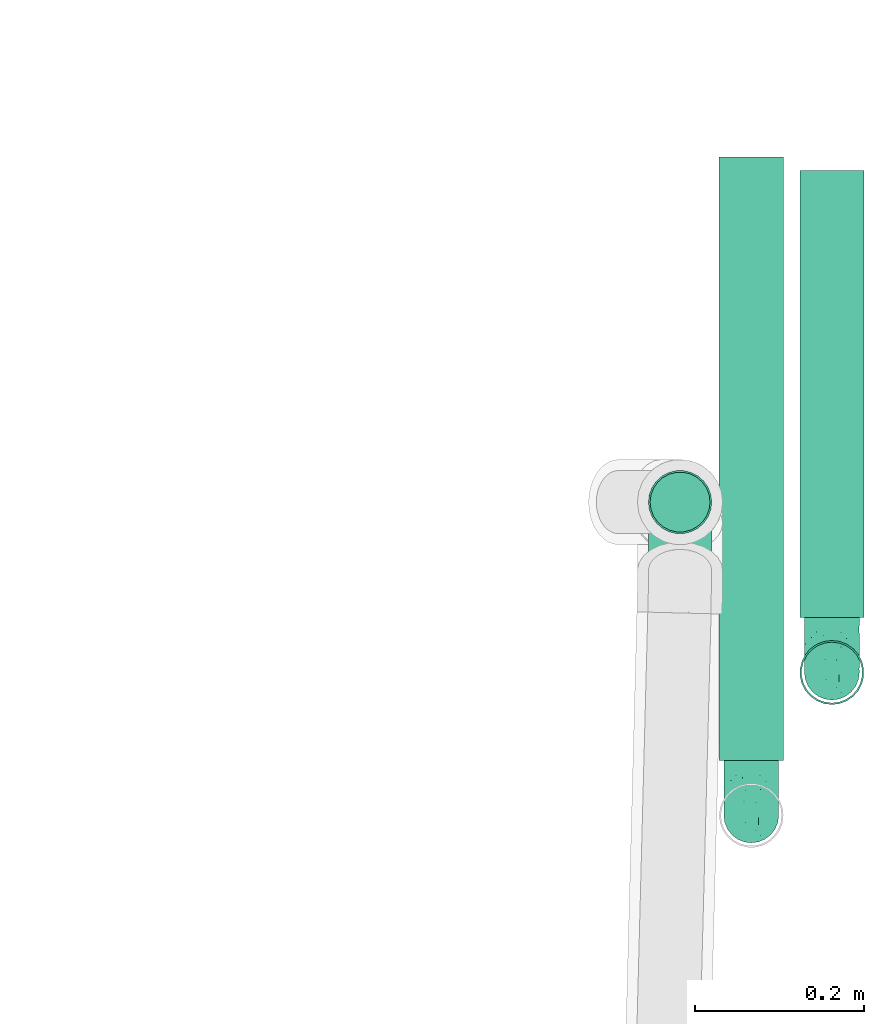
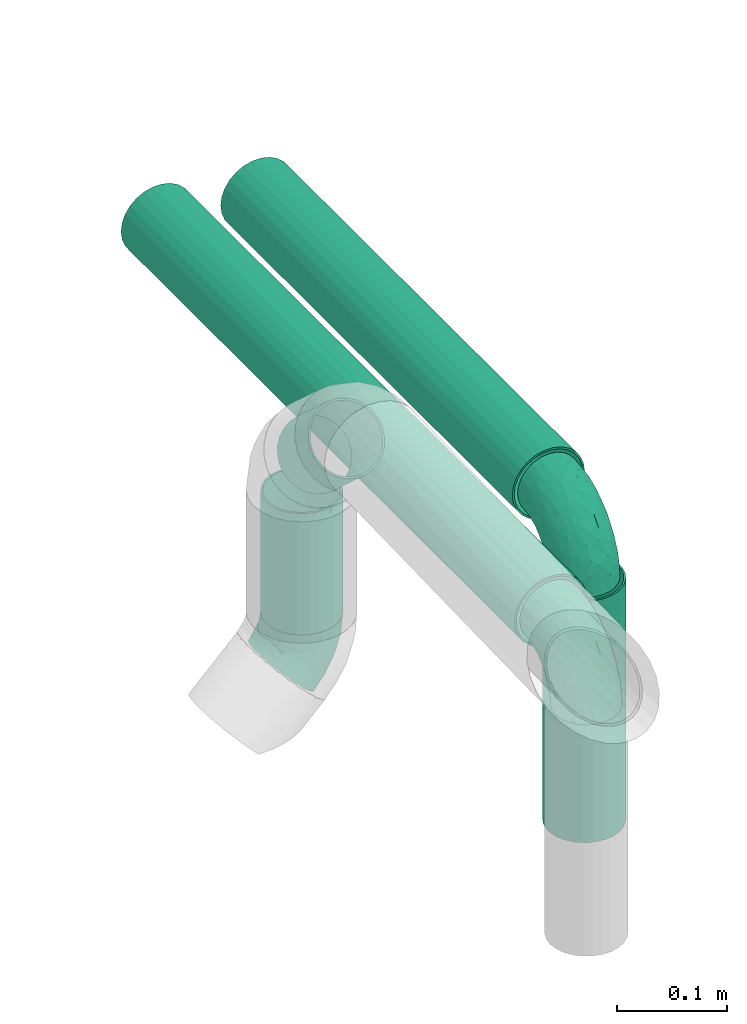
# One storey, part 78 of 156: 5 flow segments, 3 flow fittings.
"""IFC2X3 building model written with IfcOpenShell, lengths in millimetres."""

from ifc_helpers import new_model, entity, si_unit, converted_unit, derived_unit, direction, frame, origin_with_axes, origin_2d_with_axis, place, context, subcontext, project, spatial, hollow_circle, extrude, open_shell, surface_model, source, transform, mapped, type_object, element, save


model = new_model("IFC2X3")

# Units and contexts
model_context = context("Model", 3, precision=0.01, world=frame((0.0, 4.29681676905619e-09, 0.0)), true_north=direction((4.01073788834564e-13, 1.0)))
plan_context = context("Plan", 3, precision=0.01, world=frame((0.0, 4.29681676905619e-09, 0.0)), true_north=direction((4.01073788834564e-13, 1.0)))
body_context = subcontext(model_context, "Body", "Model", "MODEL_VIEW")
ifc_project = project(units=[converted_unit("PLANEANGLEUNIT", "DEGREE", entity("IfcPositiveLengthMeasure", 0.0174532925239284), si_unit("PLANEANGLEUNIT", "RADIAN"), dimensions=[0, 0, 0, 0, 0, 0, 0]), si_unit("AREAUNIT", "SQUARE_METRE"), si_unit("LENGTHUNIT", "METRE", prefix="MILLI"), si_unit("MASSUNIT", "GRAM", prefix="KILO"), si_unit("POWERUNIT", "WATT"), si_unit("PRESSUREUNIT", "PASCAL", prefix="KILO"), si_unit("FORCEUNIT", "NEWTON", prefix="KILO"), si_unit("ELECTRICVOLTAGEUNIT", "VOLT"), si_unit("ELECTRICCURRENTUNIT", "AMPERE"), si_unit("THERMODYNAMICTEMPERATUREUNIT", "DEGREE_CELSIUS"), si_unit("TIMEUNIT", "SECOND"), si_unit("VOLUMEUNIT", "CUBIC_METRE"), derived_unit("LINEARVELOCITYUNIT", [(si_unit("LENGTHUNIT", "METRE"), 1), (si_unit("TIMEUNIT", "SECOND"), -1)]), derived_unit("VOLUMETRICFLOWRATEUNIT", [(si_unit("VOLUMEUNIT", "CUBIC_METRE"), 1), (si_unit("TIMEUNIT", "SECOND"), -1)]), derived_unit("THERMALTRANSMITTANCEUNIT", [(si_unit("POWERUNIT", "WATT"), 1), (si_unit("THERMODYNAMICTEMPERATUREUNIT", "KELVIN"), -1), (si_unit("AREAUNIT", "SQUARE_METRE"), -1)]), derived_unit("SOUNDPRESSUREUNIT", [(si_unit("PRESSUREUNIT", "PASCAL"), 1)])], contexts=[model_context, plan_context])

# Site, building, storey
site_placement = place(None, frame((0.0, -4.29681676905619e-09, 0.0), z_axis=(0.0, 0.0, 1.0), x_axis=(1.0, 0.0, 0.0)))
site = spatial("IfcSite", under=ifc_project, at=site_placement, CompositionType="ELEMENT")
building_placement = place(site_placement, frame((0.0, 4.29681676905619e-09, 0.0), z_axis=(0.0, 0.0, 1.0), x_axis=(1.0, 0.0, 0.0)))
building = spatial("IfcBuilding", under=site, at=building_placement, Name="mc-building", CompositionType="ELEMENT")
storey_placement = place(building_placement, frame((0.0, 0.0, 205200.0), z_axis=(0.0, 0.0, 1.0), x_axis=(1.0, 0.0, 0.0)))
storey = spatial("IfcBuildingStorey", under=building, at=storey_placement, Name="Nivå D + 1,2 m", CompositionType="ELEMENT", Elevation=205200.0)

# Flow fittings
pipe_fitting_type = type_object("IfcPipeFittingType", Name="magi_pipe_elbow_short_001", PredefinedType="BEND")
shared_shape_1 = source(origin_with_axes(), body_context, "Body", "SurfaceModel", [
    surface_model("IfcShellBasedSurfaceModel", [(-65.0, 16.25, -28.14582), (-65.0, 8.41162, -31.39259), (-65.0, 0.0, -32.5), (-65.0, 22.98097, -22.98097), (-65.0, 31.39259, -8.41162), (-65.0, 28.14582, -16.25), (-65.0, -22.98097, -22.98097), (-65.0, -32.5, 0.0), (-65.0, -16.25, -28.14582), (-65.0, -8.41162, -31.39259), (-65.0, -31.39259, -8.41162), (-65.0, -28.14582, -16.25), (-65.0, 28.14582, 16.25), (-65.0, 31.39259, 8.41162), (-65.0, 16.25, 28.14582), (-65.0, -16.25, 28.14582), (-65.0, 22.98097, 22.98097), (-65.0, 8.41162, 31.39259), (-65.0, 0.0, 32.5), (-65.0, -28.14582, 16.25), (-65.0, -22.98097, 22.98097), (-65.0, -31.39259, 8.41162), (-65.0, -8.41162, 31.39259), (-65.0, 32.5, 0.0), (0.0, 65.0, -32.5), (-8.41162, 65.0, -31.39259), (-16.25, 65.0, -28.14582), (-22.98097, 65.0, -22.98097), (-28.14582, 65.0, -16.25), (-31.39259, 65.0, -8.41162), (22.98097, 65.0, -22.98097), (32.5, 65.0, 0.0), (8.41162, 65.0, -31.39259), (16.25, 65.0, -28.14582), (28.14582, 65.0, -16.25), (31.39259, 65.0, -8.41162), (22.98097, 65.0, 22.98097), (-31.39259, 65.0, 8.41162), (-16.25, 65.0, 28.14582), (-28.14582, 65.0, 16.25), (16.25, 65.0, 28.14582), (-22.98097, 65.0, 22.98097), (0.0, 65.0, 32.5), (-8.41162, 65.0, 31.39259), (31.39259, 65.0, 8.41162), (28.14582, 65.0, 16.25), (8.41162, 65.0, 31.39259), (-32.5, 65.0, 0.0), (-43.90702, -28.50357, 10.21429), (-47.66599, -25.24708, 18.24329), (-34.87084, -27.72801, 0.0), (-49.01599, -29.96838, 0.0), (-8.32282, -11.22418, 12.53244), (-2.26208, -8.68175, 6.83487), (1.87734, -1.87734, 13.46633), (-49.6496, -4.30536, 31.94417), (-45.51055, 4.98181, 32.4446), (11.10232, 7.93663, 12.20831), (19.84605, 26.44675, 16.1655), (7.61141, 11.79181, 20.74294), (-32.35679, -0.29166, 31.50073), (-47.54175, -12.2622, 29.22881), (-25.24141, -7.67713, 27.1649), (-41.69066, -18.5666, 24.14336), (-29.11978, -24.90981, 6.68628), (-21.28089, -20.80358, 0.0), (-11.79181, -7.61142, 20.74294), (-5.80543, 5.80543, 26.57151), (-31.76895, 51.87177, 14.12563), (-27.14947, 50.59881, 21.35142), (-12.13166, 56.06035, 30.44206), (-4.45426, 48.61541, 32.42017), (-50.09899, 12.74635, 30.7009), (-8.48341, 21.76765, 31.91167), (-16.14859, 5.96219, 30.34845), (-3.32017, 17.55886, 29.86711), (-56.22928, 19.68144, 26.48178), (-11.29526, 31.96047, 32.44169), (-24.07322, 24.07322, 31.71032), (-19.35215, 14.20223, 32.33259), (-51.38141, 34.61729, 7.14563), (-51.88792, 31.7637, 14.12347), (-40.35305, 40.35305, 12.14877), (-50.80511, 27.09273, 21.32871), (18.5666, 41.69066, 24.14336), (-33.7058, 43.08158, 18.39466), (12.2622, 47.54175, 29.22881), (25.24708, 47.66599, 18.24329), (28.50357, 43.90702, 10.21429), (-7.69094, -13.87916, 0.0), (-15.78148, -17.87706, 8.42054), (4.30536, 49.6496, 31.94417), (-35.71343, 13.92127, 31.91839), (-31.89105, 7.96389, 32.48613), (20.80358, 21.28089, 0.0), (24.90981, 29.11978, 6.68628), (17.87706, 15.78148, 8.42054), (29.96838, 49.01599, 0.0), (-34.55128, 22.0521, 30.06059), (-26.44675, -19.84605, 16.1655), (-23.56236, 42.00642, 27.31532), (-19.85518, 54.49722, 26.61661), (-34.21038, 52.42992, 6.97228), (-40.73172, 42.62744, 5.71978), (14.97296, 26.18012, 22.02699), (7.67713, 25.24141, 27.1649), (-36.85418, 48.75, 0.0), (-30.08671, 34.32049, 26.70528), (-44.75398, 22.06156, 27.36835), (-0.49673, 0.49673, 19.20125), (-18.54586, 33.64303, 31.24245), (-25.89232, 31.46486, 29.57131), (-14.05565, 44.0383, 30.95171), (-34.25835, 36.29564, 23.02122), (-41.74137, 34.9217, 18.12276), (0.29166, 32.35679, 31.50073), (-26.05885, -14.24556, 22.66105), (8.86268, 2.36037, 6.4802), (27.72801, 34.87084, 0.0), (13.87916, 7.69094, 0.0), (-48.75, 36.85418, 0.0), (3.09411, -3.09411, 0.0), (-47.92601, 27.98949, -21.64777), (-51.85818, 31.77338, -14.12745), (-26.55091, -8.20204, -27.26679), (-28.22117, -0.4054, -30.91131), (-13.05808, -0.54385, -26.63038), (-51.44999, 4.10942, -32.39422), (-47.41254, -29.09488, -10.59528), (-40.83541, -24.10132, -17.60314), (-31.01128, -24.37143, -10.90365), (-47.28426, 13.26677, -30.81881), (-35.80381, 7.68292, -32.49298), (-27.98949, 47.926, -21.64777), (-52.61518, 34.1021, -7.1115), (-20.39883, 51.02225, -26.88546), (-13.26677, 47.28425, -30.81881), (-41.3544, 41.3544, -7.75963), (19.41673, 47.01902, -24.53799), (11.21609, 41.15804, -28.90474), (12.81249, 54.88919, -29.57871), (-6.33191, -11.43232, -8.55907), (-6.42402, -8.42757, -14.80991), (3.49643, -2.75853, -8.57549), (-18.96438, 17.57366, -32.48155), (-30.80999, 19.23044, -31.53267), (-51.02225, 20.39883, -26.88546), (-54.71682, -25.87182, -18.8826), (-31.61812, 36.9194, -24.4791), (-30.03666, 30.03666, -28.53614), (-39.72338, 27.45383, -25.81957), (2.83418, -0.59734, -13.92945), (-47.01902, -19.41673, -24.53799), (24.10132, 40.83541, -17.60314), (29.09488, 47.41254, -10.59528), (24.37143, 31.01128, -10.90365), (-54.88919, -12.81249, -29.57871), (4.09785, 47.8829, -31.90577), (-20.54613, -15.81902, -17.72957), (-24.2662, -13.25756, -22.73526), (-11.78149, -8.03072, -20.32007), (-35.46896, -14.83968, -25.51841), (-41.15804, -11.21609, -28.90474), (-47.8829, -4.09785, -31.90577), (-24.35359, 39.98269, -27.53072), (-34.1021, 52.61518, -7.1115), (-4.10942, 51.44999, -32.39422), (-11.47328, 11.47328, -30.68873), (0.4054, 28.22117, -30.91131), (1.36819, 15.2666, -27.10351), (-31.77338, 51.85818, -14.12745), (-39.0335, 39.0335, -16.01919), (25.87182, 54.71682, -18.8826), (18.8348, 26.11149, -17.45424), (10.47668, 12.32102, -18.0266), (13.25756, 24.2662, -22.73526), (6.71713, 27.74562, -28.39194), (-7.68292, 35.80381, -32.49298), (-39.5129, 20.9158, -29.29247), (-19.37897, 31.62685, -31.37546), (-0.30809, 0.30809, -18.83153), (-15.05383, -18.17086, -5.59074), (16.66507, 16.14703, -12.10401), (18.17086, 15.05383, -5.59074), (3.82878, 9.90613, -22.79737), (-16.14703, -16.66507, -12.10401)], [open_shell([[[0, 1, 2]], [[3, 0, 2]], [[4, 5, 3]], [[6, 3, 2]], [[4, 3, 7]], [[8, 6, 9]], [[6, 2, 9]], [[10, 7, 11]], [[6, 11, 7]], [[6, 7, 3]], [[7, 12, 4]], [[4, 12, 13]], [[14, 12, 7]], [[15, 14, 7]], [[16, 12, 14]], [[17, 14, 18]], [[19, 20, 21]], [[21, 20, 7]], [[22, 18, 15]], [[15, 7, 20]], [[14, 15, 18]], [[4, 13, 23]], [[24, 25, 26]], [[24, 26, 27]], [[27, 28, 29]], [[24, 27, 30]], [[31, 27, 29]], [[32, 30, 33]], [[32, 24, 30]], [[34, 31, 35]], [[31, 34, 30]], [[27, 31, 30]], [[29, 36, 31]], [[36, 29, 37]], [[38, 37, 39]], [[40, 37, 38]], [[38, 39, 41]], [[42, 38, 43]], [[44, 36, 45]], [[31, 36, 44]], [[40, 42, 46]], [[40, 36, 37]], [[42, 40, 38]], [[29, 47, 37]], [[48, 49, 19]], [[50, 48, 51]], [[52, 53, 54]], [[21, 48, 19]], [[21, 51, 48]], [[18, 55, 56]], [[19, 49, 20]], [[57, 58, 59]], [[60, 61, 62]], [[63, 15, 20]], [[63, 61, 15]], [[64, 50, 65]], [[62, 66, 67]], [[39, 68, 69]], [[43, 70, 71]], [[17, 72, 14]], [[73, 74, 75]], [[14, 76, 16]], [[22, 55, 18]], [[77, 78, 79]], [[80, 81, 82]], [[12, 83, 81]], [[84, 36, 40]], [[23, 13, 80]], [[13, 12, 81]], [[68, 85, 69]], [[83, 12, 16]], [[18, 56, 17]], [[40, 86, 84]], [[16, 76, 83]], [[87, 58, 88]], [[39, 37, 68]], [[89, 90, 65]], [[42, 91, 46]], [[65, 90, 64]], [[42, 43, 71]], [[92, 93, 79]], [[88, 44, 45]], [[45, 36, 87]], [[87, 88, 45]], [[94, 95, 96]], [[88, 97, 44]], [[98, 72, 92]], [[49, 99, 63]], [[69, 100, 101]], [[82, 102, 103]], [[104, 105, 59]], [[106, 102, 47]], [[98, 107, 108]], [[102, 82, 68]], [[86, 40, 46]], [[69, 41, 39]], [[109, 54, 57]], [[110, 100, 111]], [[15, 61, 22]], [[101, 38, 41]], [[70, 43, 38]], [[112, 77, 71]], [[84, 86, 105]], [[96, 95, 58]], [[100, 69, 113]], [[72, 17, 56]], [[108, 113, 83]], [[81, 114, 82]], [[112, 110, 77]], [[91, 71, 115]], [[62, 61, 63]], [[55, 61, 60]], [[116, 99, 66]], [[74, 62, 67]], [[91, 86, 46]], [[105, 86, 115]], [[75, 105, 115]], [[109, 67, 66]], [[59, 105, 67]], [[48, 64, 99]], [[99, 49, 48]], [[63, 20, 49]], [[36, 84, 87]], [[58, 87, 84]], [[92, 72, 56]], [[76, 72, 108]], [[102, 68, 37]], [[82, 114, 85]], [[98, 111, 107]], [[112, 70, 101]], [[114, 83, 113]], [[82, 103, 80]], [[92, 79, 78]], [[115, 71, 77]], [[74, 79, 60]], [[77, 79, 73]], [[71, 91, 42]], [[86, 91, 115]], [[61, 55, 22]], [[56, 55, 60]], [[57, 54, 117]], [[104, 59, 58]], [[116, 66, 62]], [[52, 99, 90]], [[21, 7, 51]], [[97, 88, 118]], [[97, 31, 44]], [[53, 90, 89]], [[90, 53, 52]], [[94, 96, 119]], [[88, 95, 118]], [[117, 54, 53]], [[92, 56, 93]], [[98, 92, 78]], [[111, 98, 78]], [[72, 98, 108]], [[110, 111, 78]], [[107, 111, 100]], [[47, 102, 37]], [[102, 106, 103]], [[106, 120, 103]], [[103, 120, 80]], [[23, 80, 120]], [[13, 81, 80]], [[56, 60, 93]], [[60, 79, 93]], [[117, 121, 119]], [[121, 117, 53]], [[53, 89, 121]], [[119, 96, 117]], [[117, 96, 57]], [[77, 110, 78]], [[100, 110, 112]], [[83, 114, 81]], [[85, 114, 113]], [[69, 85, 113]], [[82, 85, 68]], [[109, 52, 54]], [[99, 52, 66]], [[69, 101, 41]], [[112, 101, 100]], [[100, 113, 107]], [[108, 107, 113]], [[62, 74, 60]], [[75, 74, 67]], [[105, 75, 67]], [[73, 75, 115]], [[77, 73, 115]], [[74, 73, 79]], [[99, 64, 90]], [[50, 64, 48]], [[118, 95, 94]], [[58, 95, 88]], [[58, 57, 96]], [[109, 57, 59]], [[72, 76, 14]], [[83, 76, 108]], [[101, 70, 38]], [[71, 70, 112]], [[58, 84, 104]], [[105, 104, 84]], [[67, 109, 59]], [[52, 109, 66]], [[62, 63, 116]], [[99, 116, 63]], [[122, 5, 123]], [[124, 125, 126]], [[2, 1, 127]], [[128, 129, 130]], [[127, 131, 132]], [[28, 27, 133]], [[120, 134, 23]], [[135, 26, 136]], [[123, 134, 137]], [[138, 139, 140]], [[122, 3, 5]], [[141, 142, 143]], [[144, 132, 145]], [[131, 0, 146]], [[128, 11, 147]], [[148, 149, 150]], [[128, 51, 10]], [[142, 151, 143]], [[152, 6, 8]], [[153, 154, 155]], [[156, 152, 8]], [[32, 157, 24]], [[158, 159, 160]], [[147, 11, 6]], [[129, 152, 161]], [[156, 8, 9]], [[162, 163, 125]], [[154, 34, 35]], [[120, 106, 137]], [[149, 148, 164]], [[47, 29, 165]], [[163, 9, 2]], [[5, 4, 123]], [[25, 166, 136]], [[167, 168, 169]], [[170, 133, 171]], [[25, 24, 166]], [[33, 30, 138]], [[157, 32, 140]], [[29, 28, 170]], [[30, 34, 172]], [[26, 135, 27]], [[132, 131, 145]], [[32, 33, 140]], [[173, 174, 175]], [[169, 168, 176]], [[25, 136, 26]], [[175, 138, 173]], [[168, 177, 157]], [[163, 162, 156]], [[153, 172, 154]], [[11, 128, 10]], [[154, 97, 118]], [[131, 178, 145]], [[0, 3, 146]], [[175, 139, 138]], [[155, 118, 94]], [[131, 1, 0]], [[146, 178, 131]], [[170, 137, 165]], [[149, 179, 145]], [[171, 133, 148]], [[160, 180, 142]], [[65, 181, 89]], [[170, 165, 29]], [[137, 171, 123]], [[172, 138, 30]], [[138, 153, 173]], [[168, 157, 139]], [[166, 157, 177]], [[176, 175, 169]], [[168, 167, 144]], [[154, 35, 97]], [[155, 182, 173]], [[162, 124, 161]], [[147, 152, 129]], [[127, 163, 2]], [[132, 144, 125]], [[132, 125, 163]], [[125, 167, 126]], [[129, 158, 130]], [[35, 31, 97]], [[143, 182, 183]], [[169, 126, 167]], [[3, 122, 146]], [[178, 150, 149]], [[136, 179, 164]], [[133, 27, 135]], [[123, 4, 134]], [[122, 123, 171]], [[133, 170, 28]], [[137, 170, 171]], [[184, 175, 174]], [[180, 160, 126]], [[126, 169, 184]], [[126, 159, 124]], [[51, 128, 50]], [[51, 7, 10]], [[131, 127, 1]], [[163, 127, 132]], [[157, 166, 24]], [[136, 166, 177]], [[164, 179, 149]], [[144, 167, 125]], [[179, 144, 145]], [[168, 144, 177]], [[136, 177, 179]], [[144, 179, 177]], [[141, 121, 89]], [[89, 181, 141]], [[154, 118, 155]], [[183, 155, 94]], [[143, 183, 119]], [[119, 183, 94]], [[155, 183, 182]], [[181, 130, 185]], [[50, 128, 130]], [[130, 181, 65]], [[50, 130, 65]], [[141, 181, 185]], [[142, 141, 185]], [[143, 121, 141]], [[158, 160, 142]], [[142, 180, 151]], [[158, 142, 185]], [[126, 160, 159]], [[130, 158, 185]], [[129, 159, 158]], [[23, 134, 4]], [[120, 137, 134]], [[137, 106, 165]], [[47, 165, 106]], [[174, 151, 180]], [[182, 143, 151]], [[150, 146, 122]], [[149, 145, 178]], [[146, 150, 178]], [[122, 171, 148]], [[148, 150, 122]], [[164, 133, 135]], [[133, 164, 148]], [[164, 135, 136]], [[138, 140, 33]], [[157, 140, 139]], [[154, 172, 34]], [[138, 172, 153]], [[163, 156, 9]], [[152, 156, 162]], [[152, 147, 6]], [[128, 147, 129]], [[155, 173, 153]], [[174, 173, 182]], [[151, 174, 182]], [[174, 180, 184]], [[126, 184, 180]], [[175, 184, 169]], [[168, 139, 176]], [[175, 176, 139]], [[161, 124, 159]], [[125, 124, 162]], [[129, 161, 159]], [[162, 161, 152]], [[143, 119, 121]]])]),
])
for number, where, z_axis, x_axis, name in (
    (1, (348046.3978, 460797.29788, 4259.42444999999), (-1.0, 0.0, 0.0), (0.0, 0.0, 1.0), "magi_pipe_elbow_short_001"),
    (2, (348141.92093, 460966.59861, 4264.42444999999), (-1.0, 0.0, 0.0), (0.0, 0.0, 1.0), "magi_pipe_elbow_short_001"),
):
    element("IfcFlowFitting", number, at=place(storey_placement, frame(where, z_axis=z_axis, x_axis=x_axis)), inside=storey, type_object=pipe_fitting_type, Name=name, context=body_context, shape_type="MappedRepresentation", body=[
        mapped(shared_shape_1, transform((0.0, 0.0, 0.0), scale=1.0)),
    ])
shared_shape_2 = source(origin_with_axes(), body_context, "Body", "SurfaceModel", [
    surface_model("IfcShellBasedSurfaceModel", [(-31.06602, 18.75, -32.47595), (-31.06602, 9.70571, -36.22222), (-31.06602, 0.0, -37.5), (-31.06602, 26.5165, -26.5165), (-31.06602, 36.22222, -9.70571), (-31.06602, 32.47595, -18.75), (-31.06602, -26.5165, -26.5165), (-31.06602, -32.47595, -18.75), (-31.06602, -18.75, -32.47595), (-31.06602, -9.70571, -36.22222), (-31.06602, -36.22222, -9.70571), (-31.06602, -37.5, 0.0), (-31.06602, -36.22222, 9.70571), (-31.06602, 36.22222, 9.70571), (-31.06602, 37.5, 0.0), (-31.06602, 26.5165, 26.5165), (-31.06602, 32.47595, 18.75), (-31.06602, 9.70571, 36.22222), (-31.06602, 18.75, 32.47595), (-31.06602, 0.0, 37.5), (-31.06602, -32.47595, 18.75), (-31.06602, -26.5165, 26.5165), (-31.06602, -18.75, 32.47595), (-31.06602, -9.70571, 36.22222), (21.96699, 21.96699, -37.5), (15.10402, 28.82997, -36.22222), (8.70874, 35.22524, -32.47595), (3.21699, 40.71699, -26.5165), (-0.99697, 44.93096, -18.75), (-3.64599, 47.57997, -9.70571), (40.71699, 3.21699, -26.5165), (47.57997, -3.64599, 9.70571), (35.22524, 8.70874, -32.47595), (28.82997, 15.10402, -36.22222), (44.93096, -0.99697, -18.75), (47.57997, -3.64599, -9.70571), (48.4835, -4.54951, 0.0), (-4.54951, 48.4835, 0.0), (3.21699, 40.71699, 26.5165), (-3.64599, 47.57997, 9.70571), (-0.99697, 44.93096, 18.75), (8.70874, 35.22524, 32.47595), (15.10402, 28.82997, 36.22222), (21.96699, 21.96699, 37.5), (40.71699, 3.21699, 26.5165), (44.93096, -0.99697, 18.75), (35.22524, 8.70874, 32.47595), (28.82997, 15.10402, 36.22222), (9.55102, -23.0582, 20.89761), (-8.29629, -21.19414, 28.93647), (-12.1092, -28.6804, 21.95769), (-12.52947, -35.05962, 0.0), (-1.94887, -33.66666, 0.0), (-8.00413, -34.54807, 6.40349), (28.8426, -11.7176, 21.95769), (-14.85891, -13.75094, 34.27307), (3.85041, -9.29571, 33.80058), (1.11309, 22.54421, 35.00091), (6.77913, 17.75082, 36.95457), (-11.19207, -3.61059, 37.00319), (-3.56676, 8.61092, 37.36822), (-18.78922, 5.19642, 37.27243), (-10.65195, 25.71608, 30.6152), (-16.5374, 31.44928, 23.66502), (20.23022, 0.78345, 34.27307), (-14.40868, 15.60478, 35.05721), (14.47194, -24.54326, 14.77903), (-6.72388, -32.44318, 13.02279), (11.6428, -28.1082, 8.15064), (-15.44831, 37.29553, 15.40662), (30.08895, -18.76939, 6.40349), (33.65056, -15.93122, 0.0), (-15.02041, 40.18231, 7.87919), (27.69529, -18.1863, 13.02279), (10.46707, 5.36091, 37.00319), (20.85288, -9.12015, 28.93647), (-16.71539, 40.35452, 0.0), (6.2943, -15.19578, 29.90417), (11.61755, -28.04726, 0.0), (25.18398, -22.42786, 0.0), (-11.19207, -3.61059, -37.00319), (-8.00414, -34.54807, -6.40349), (11.6428, -28.1082, -8.15064), (10.46707, 5.36091, -37.00319), (-16.72824, 15.15409, -35.00091), (-17.34529, 7.75816, -36.95457), (-10.5443, 33.9317, -23.66502), (20.85288, -9.12015, -28.93647), (-15.44832, 37.29553, -15.40662), (27.69529, -18.1863, -13.02279), (-17.79215, 39.03422, -7.87919), (-0.84577, 21.22272, -35.05721), (-6.72388, -32.44318, -13.02279), (-10.65195, 25.71608, -30.6152), (-12.1092, -28.6804, -21.95769), (-8.29629, -21.19414, -28.93646), (6.2943, -15.19578, -29.90417), (9.55102, -23.0582, -20.89761), (-14.85891, -13.75094, -34.27307), (20.23022, 0.78345, -34.27307), (3.85041, -9.29571, -33.80058), (30.08895, -18.76939, -6.40349), (9.61156, 16.96041, -37.27243), (7.1215, -27.58792, -14.77903), (28.8426, -11.7176, -21.95769), (-3.56676, 8.61092, -37.36822)], [open_shell([[[0, 1, 2]], [[3, 0, 2]], [[4, 5, 3]], [[6, 3, 2]], [[4, 3, 7]], [[8, 6, 9]], [[6, 2, 9]], [[10, 11, 7]], [[3, 6, 7]], [[7, 11, 12]], [[12, 4, 7]], [[13, 14, 15]], [[16, 13, 15]], [[17, 18, 15]], [[14, 17, 15]], [[19, 17, 14]], [[20, 21, 12]], [[22, 12, 21]], [[23, 19, 22]], [[12, 22, 19]], [[19, 14, 12]], [[4, 12, 14]], [[24, 25, 26]], [[24, 26, 27]], [[27, 28, 29]], [[24, 27, 30]], [[27, 31, 30]], [[24, 32, 33]], [[24, 30, 32]], [[30, 31, 34]], [[31, 35, 34]], [[35, 31, 36]], [[29, 37, 27]], [[38, 37, 39]], [[38, 39, 40]], [[38, 41, 42]], [[38, 42, 37]], [[37, 42, 43]], [[31, 44, 45]], [[44, 31, 46]], [[46, 43, 47]], [[43, 46, 31]], [[31, 37, 43]], [[37, 31, 27]], [[48, 49, 50]], [[51, 52, 53]], [[22, 21, 49]], [[45, 44, 54]], [[55, 49, 56]], [[50, 49, 21]], [[42, 57, 58]], [[23, 22, 55]], [[59, 60, 61]], [[19, 23, 59]], [[15, 62, 63]], [[46, 47, 64]], [[61, 17, 19]], [[18, 65, 62]], [[12, 51, 53]], [[41, 38, 62]], [[66, 67, 68]], [[62, 15, 18]], [[21, 20, 50]], [[16, 63, 69]], [[13, 16, 69]], [[31, 70, 71]], [[72, 14, 13]], [[73, 66, 68]], [[67, 53, 68]], [[18, 17, 65]], [[43, 58, 74]], [[44, 46, 75]], [[40, 39, 69]], [[74, 47, 43]], [[48, 50, 67]], [[44, 75, 54]], [[60, 58, 57]], [[75, 46, 64]], [[20, 67, 50]], [[70, 31, 73]], [[48, 54, 75]], [[61, 65, 17]], [[48, 66, 54]], [[13, 69, 72]], [[20, 12, 67]], [[76, 72, 37]], [[49, 77, 56]], [[39, 72, 69]], [[56, 74, 59]], [[40, 69, 63]], [[56, 64, 74]], [[40, 63, 38]], [[60, 59, 74]], [[42, 41, 57]], [[57, 62, 65]], [[55, 59, 23]], [[16, 15, 63]], [[73, 31, 45]], [[73, 45, 54]], [[77, 48, 75]], [[38, 63, 62]], [[62, 57, 41]], [[60, 57, 65]], [[49, 55, 22]], [[59, 55, 56]], [[74, 64, 47]], [[75, 64, 56]], [[12, 11, 51]], [[68, 52, 78]], [[12, 53, 67]], [[52, 68, 53]], [[70, 68, 79]], [[71, 70, 79]], [[71, 36, 31]], [[68, 70, 73]], [[74, 58, 60]], [[43, 42, 58]], [[59, 61, 19]], [[65, 61, 60]], [[48, 77, 49]], [[75, 56, 77]], [[37, 72, 39]], [[72, 76, 14]], [[54, 66, 73]], [[67, 66, 48]], [[79, 68, 78]], [[9, 2, 80]], [[52, 81, 82]], [[24, 33, 83]], [[84, 85, 1]], [[5, 86, 3]], [[32, 30, 87]], [[88, 86, 5]], [[34, 35, 89]], [[4, 90, 88]], [[26, 25, 91]], [[10, 81, 51]], [[0, 84, 1]], [[81, 10, 92]], [[27, 93, 86]], [[92, 7, 94]], [[94, 6, 95]], [[6, 8, 95]], [[96, 97, 95]], [[10, 7, 92]], [[6, 94, 7]], [[98, 8, 9]], [[99, 83, 33]], [[29, 28, 88]], [[100, 98, 80]], [[14, 76, 90]], [[97, 94, 95]], [[37, 29, 90]], [[100, 80, 83]], [[27, 26, 93]], [[88, 5, 4]], [[28, 86, 88]], [[98, 95, 8]], [[91, 93, 26]], [[85, 80, 2]], [[93, 91, 84]], [[3, 93, 0]], [[35, 71, 101]], [[102, 25, 24]], [[99, 33, 32]], [[103, 89, 82]], [[30, 104, 87]], [[100, 99, 87]], [[30, 34, 104]], [[105, 102, 83]], [[104, 97, 87]], [[105, 83, 80]], [[101, 71, 79]], [[102, 91, 25]], [[105, 85, 84]], [[81, 92, 82]], [[97, 103, 94]], [[87, 96, 100]], [[34, 89, 104]], [[29, 88, 90]], [[97, 104, 89]], [[28, 27, 86]], [[3, 86, 93]], [[93, 84, 0]], [[105, 84, 91]], [[80, 98, 9]], [[95, 98, 100]], [[87, 99, 32]], [[83, 99, 100]], [[51, 81, 52]], [[51, 11, 10]], [[103, 82, 92]], [[101, 82, 89]], [[82, 79, 78]], [[35, 36, 71]], [[82, 101, 79]], [[35, 101, 89]], [[80, 85, 105]], [[2, 1, 85]], [[83, 102, 24]], [[91, 102, 105]], [[97, 96, 87]], [[95, 100, 96]], [[14, 90, 4]], [[90, 76, 37]], [[94, 103, 92]], [[89, 103, 97]], [[52, 82, 78]]])]),
])
flow_fitting_placement = place(storey_placement, frame((347962.03069, 461168.55904, 4070.95318000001), z_axis=(0.0, -1.0, 0.0), x_axis=(0.707106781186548, 0.0, 0.707106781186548)))
element("IfcFlowFitting", 3, at=flow_fitting_placement, inside=storey, type_object=pipe_fitting_type, Name="magi_pipe_elbow_short_001", context=body_context, shape_type="MappedRepresentation", body=[
    mapped(shared_shape_2, transform((0.0, 0.0, 0.0), scale=1.0)),
])

# Flow segments
pipe_segment_type_1 = type_object("IfcPipeSegmentType", Name="Stålrør normaltykke", PredefinedType="RIGIDSEGMENT")
shared_shape_3 = source(origin_with_axes(), body_context, "Body", "SweptSolid", [
    extrude(hollow_circle(Radius=38.0, WallThickness=2.0, at=origin_2d_with_axis()), frame((0.0, 0.0, 0.0), z_axis=(1.0, 0.0, 0.0), x_axis=(0.0, 1.0, 0.0)), (0.0, 0.0, 1.0), 267.8),
])
flow_segment_1_placement = place(storey_placement, frame((348141.92093, 460966.59861, 3931.33498000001), z_axis=(1.0, 0.0, 0.0), x_axis=(0.0, 0.0, 1.0)))
element("IfcFlowSegment", 4, at=flow_segment_1_placement, inside=storey, type_object=pipe_segment_type_1, Name="Stålrør normaltykke", context=body_context, shape_type="MappedRepresentation", body=[
    mapped(shared_shape_3, transform((0.0, 0.0, 0.0), scale=1.0)),
])
shared_shape_4 = source(origin_with_axes(), body_context, "Body", "SweptSolid", [
    extrude(hollow_circle(Radius=38.0, WallThickness=2.0, at=origin_2d_with_axis()), frame((0.0, 0.0, 0.0), z_axis=(1.0, 0.0, 0.0), x_axis=(0.0, 1.0, 0.0)), (0.0, 0.0, 1.0), 715.0),
])
flow_segment_2_placement = place(storey_placement, frame((348046.3978, 460862.29788, 4259.42444999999), z_axis=(0.0, 0.0, 1.0), x_axis=(0.0, 1.0, 0.0)))
element("IfcFlowSegment", 5, at=flow_segment_2_placement, inside=storey, type_object=pipe_segment_type_1, Name="Stålrør normaltykke", context=body_context, shape_type="MappedRepresentation", body=[
    mapped(shared_shape_4, transform((0.0, 0.0, 0.0), scale=1.0)),
])
shared_shape_5 = source(origin_with_axes(), body_context, "Body", "SweptSolid", [
    extrude(hollow_circle(Radius=38.0, WallThickness=2.0, at=origin_2d_with_axis()), frame((0.0, 0.0, 0.0), z_axis=(1.0, 0.0, 0.0), x_axis=(0.0, 1.0, 0.0)), (0.0, 0.0, 1.0), 530.0),
])
flow_segment_3_placement = place(storey_placement, frame((348141.92093, 461031.59861, 4264.42444999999), z_axis=(0.0, 0.0, 1.0), x_axis=(0.0, 1.0, 0.0)))
element("IfcFlowSegment", 6, at=flow_segment_3_placement, inside=storey, type_object=pipe_segment_type_1, Name="Stålrør normaltykke", context=body_context, shape_type="MappedRepresentation", body=[
    mapped(shared_shape_5, transform((0.0, 0.0, 0.0), scale=1.0)),
])
pipe_segment_type_2 = type_object("IfcPipeSegmentType", Name="MA", PredefinedType="RIGIDSEGMENT")
shared_shape_6 = source(origin_with_axes(), body_context, "Body", "SweptSolid", [
    extrude(hollow_circle(Radius=37.5, WallThickness=2.0, at=origin_2d_with_axis()), frame((0.0, 0.0, 0.0), z_axis=(1.0, 0.0, 0.0), x_axis=(0.0, 1.0, 0.0)), (0.0, 0.0, 1.0), 134.6),
])
flow_segment_4_placement = place(storey_placement, frame((347962.03069, 461168.55904, 4102.01918999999), z_axis=(0.0, 0.9999999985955, 5.29999999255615e-05), x_axis=(0.0, -5.29999999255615e-05, 0.9999999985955)))
element("IfcFlowSegment", 7, at=flow_segment_4_placement, inside=storey, type_object=pipe_segment_type_2, Name="MA", context=body_context, shape_type="MappedRepresentation", body=[
    mapped(shared_shape_6, transform((0.0, 0.0, 0.0), scale=1.0)),
])
shared_shape_7 = source(origin_with_axes(), body_context, "Body", "SweptSolid", [
    extrude(hollow_circle(Radius=37.5, WallThickness=2.0, at=origin_2d_with_axis()), frame((0.0, 0.0, 0.0), z_axis=(1.0, 0.0, 0.0), x_axis=(0.0, 1.0, 0.0)), (0.0, 0.0, 1.0), 75.9),
])
flow_segment_5_placement = place(storey_placement, frame((347962.03069, 461087.47298, 4343.08236999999), z_axis=(0.0, 0.669964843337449, 0.742392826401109), x_axis=(0.0, 0.742392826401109, -0.669964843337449)))
element("IfcFlowSegment", 8, at=flow_segment_5_placement, inside=storey, type_object=pipe_segment_type_2, Name="MA", context=body_context, shape_type="MappedRepresentation", body=[
    mapped(shared_shape_7, transform((0.0, 0.0, 0.0), scale=1.0)),
])

save(model, "model.ifc")
